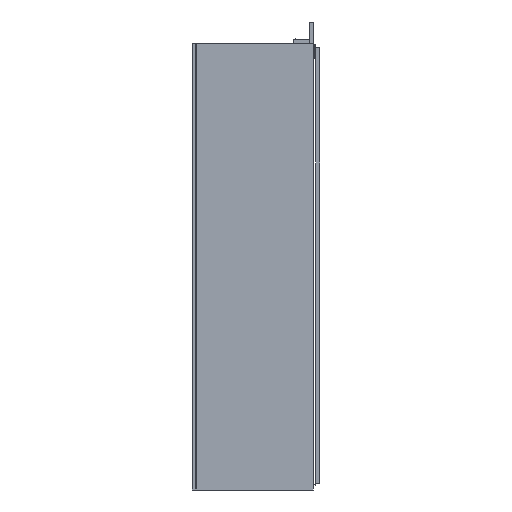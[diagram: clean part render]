
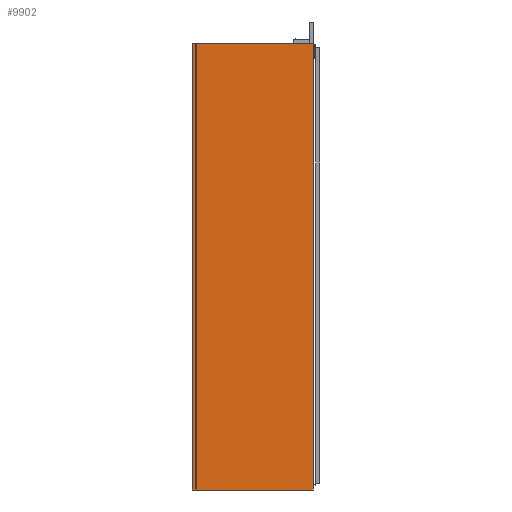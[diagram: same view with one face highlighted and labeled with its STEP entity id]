
A CAD part, left-side view. The second image highlights one B-rep face of the part: STEP entity #9902.
In plain terms, the highlighted planar face has unit normal (-1, 0, 0).
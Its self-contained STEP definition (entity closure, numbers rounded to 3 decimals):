
#9902=ADVANCED_FACE('',(#20708),#20709,.T.);
#20708=FACE_OUTER_BOUND('',#31838,.T.);
#20709=PLANE('',#31839);
#31838=EDGE_LOOP('',(#61263,#61264,#61265,#61266));
#31839=AXIS2_PLACEMENT_3D('',#61267,#61268,#61269);
#61263=ORIENTED_EDGE('',*,*,#76506,.F.);
#61264=ORIENTED_EDGE('',*,*,#76504,.T.);
#61265=ORIENTED_EDGE('',*,*,#76493,.F.);
#61266=ORIENTED_EDGE('',*,*,#76507,.F.);
#61267=CARTESIAN_POINT('',(0.0,599.,0.0));
#61268=DIRECTION('',(-1.0,0.0,0.0));
#61269=DIRECTION('',(0.0,-1.0,0.0));
#76493=EDGE_CURVE('',#94462,#94464,#94465,.T.);
#76504=EDGE_CURVE('',#94478,#94464,#94480,.T.);
#76506=EDGE_CURVE('',#94478,#94482,#94483,.T.);
#76507=EDGE_CURVE('',#94482,#94462,#94484,.T.);
#94462=VERTEX_POINT('',#118894);
#94464=VERTEX_POINT('',#118897);
#94465=LINE('',#118898,#118899);
#94478=VERTEX_POINT('',#118918);
#94480=LINE('',#118921,#118922);
#94482=VERTEX_POINT('',#118924);
#94483=LINE('',#118925,#118926);
#94484=LINE('',#118927,#118928);
#118894=CARTESIAN_POINT('',(0.0,599.,2100.0));
#118897=CARTESIAN_POINT('',(0.0,29.,2100.0));
#118898=CARTESIAN_POINT('',(0.0,99.,2100.0));
#118899=VECTOR('',#134862,1.0);
#118918=CARTESIAN_POINT('',(0.0,29.,0.0));
#118921=CARTESIAN_POINT('',(0.0,29.,0.0));
#118922=VECTOR('',#134870,1.0);
#118924=CARTESIAN_POINT('',(0.0,599.,0.0));
#118925=CARTESIAN_POINT('',(0.0,99.,0.0));
#118926=VECTOR('',#134871,1.0);
#118927=CARTESIAN_POINT('',(0.0,599.,0.0));
#118928=VECTOR('',#134872,1.0);
#134862=DIRECTION('',(0.0,-1.0,0.0));
#134870=DIRECTION('',(0.0,0.0,1.0));
#134871=DIRECTION('',(0.0,1.0,0.0));
#134872=DIRECTION('',(0.0,0.0,1.0));
